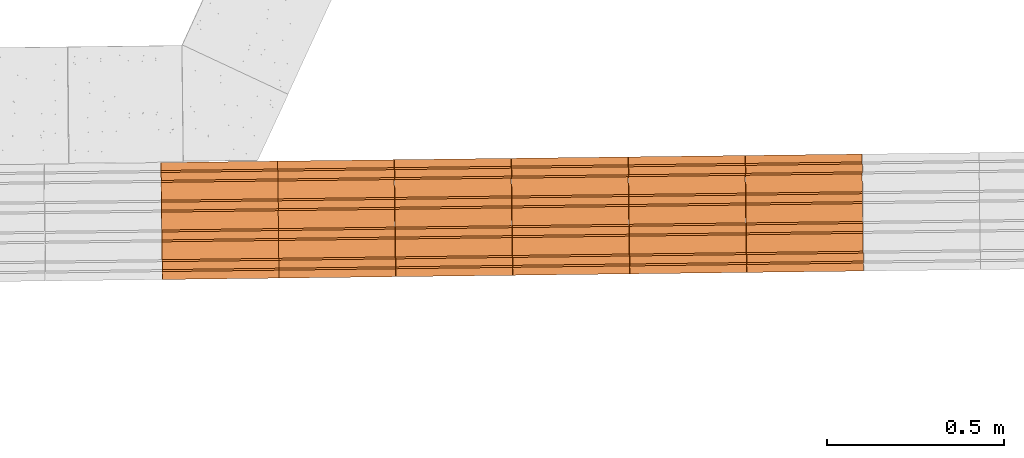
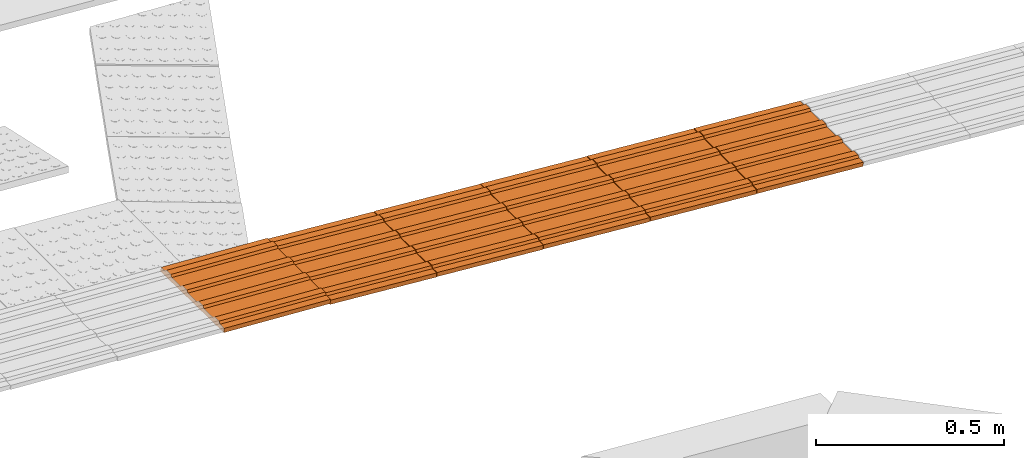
# One storey, part 205 of 237: 6 proxies.
"""IFC2X3 building model written with IfcOpenShell, lengths in millimetres."""

import ifcopenshell
import ifcopenshell.guid

model = None  # the IFC model being written
_history = None  # IfcOwnerHistory: only IFC2X3 demands one
_inside = {}  # id of a spatial element -> (the spatial element, [elements in it])
_under = {}  # id of a project, library or spatial element -> (it, [spatial elements below it])
_declared = {}  # id of a project -> (the project, [libraries it declares])
_typed = {}  # id of a type object -> (the type object, [elements of that type])
_made_of = {}  # id of a material, layer set ... -> (it, [elements and type objects made of it])


def new_model(schema):
    """Start an empty IFC model of exactly this schema.

    Asked for "IFC4X3", IfcOpenShell would pick the latest addendum, in which some entities
    have other attributes; the version numbers below select the first issue.
    IFC2X3 requires an IfcOwnerHistory on every rooted entity: one is made here for all.
    """
    global model, _history
    if schema == "IFC4X3":
        model = ifcopenshell.file(schema_version=(4, 3, 0, 0))
    else:
        model = ifcopenshell.file(schema=schema)
    _inside.clear()
    _under.clear()
    _declared.clear()
    _typed.clear()
    _made_of.clear()
    _history = None
    if model.schema == "IFC2X3":
        org = make("IfcOrganization", Name="unknown")
        user = make(
            "IfcPersonAndOrganization",
            ThePerson=make("IfcPerson", FamilyName="unknown"),
            TheOrganization=org,
        )
        app = make(
            "IfcApplication",
            ApplicationDeveloper=org,
            Version="unknown",
            ApplicationFullName="unknown",
            ApplicationIdentifier="unknown",
        )
        _history = make(
            "IfcOwnerHistory",
            OwningUser=user,
            OwningApplication=app,
            ChangeAction="ADDED",
            CreationDate=0,
        )
    return model


def make(cls, **values):
    """One entity of the class cls with the attributes given. An attribute that is None is left unset."""
    return model.create_entity(
        cls, **{name: value for name, value in values.items() if value is not None}
    )


def entity(cls, *values):
    """Any entity or typed value of the class cls, its attributes in the order of the schema. None: left unset."""
    e = model.create_entity(cls)
    for i, value in enumerate(values):
        if value is not None:
            e[i] = value
    return e


def rooted(cls, **values):
    """An entity with a GlobalId (a new one), such as an element, a storey or a relation."""
    return make(cls, GlobalId=ifcopenshell.guid.new(), OwnerHistory=_history, **values)


def si_unit(unit_type, name, prefix=None):
    """IfcSIUnit, for example si_unit("LENGTHUNIT", "METRE", prefix="MILLI")."""
    return make("IfcSIUnit", UnitType=unit_type, Prefix=prefix, Name=name)


def converted_unit(unit_type, name, factor, base, dimensions=None, offset=None):
    """IfcConversionBasedUnit, such as the inch: factor (a typed value) times the base unit."""
    return make(
        "IfcConversionBasedUnit"
        if offset is None
        else "IfcConversionBasedUnitWithOffset",
        ConversionOffset=offset,
        Dimensions=None
        if dimensions is None
        else entity("IfcDimensionalExponents", *dimensions),
        UnitType=unit_type,
        Name=name,
        ConversionFactor=make(
            "IfcMeasureWithUnit", ValueComponent=factor, UnitComponent=base
        ),
    )


def derived_unit(unit_type, elements):
    """IfcDerivedUnit: a product of units, each with its exponent."""
    return make(
        "IfcDerivedUnit",
        Elements=[
            make("IfcDerivedUnitElement", Unit=unit, Exponent=power)
            for unit, power in elements
        ],
        UnitType=unit_type,
    )


def money_unit(currency):
    """IfcMonetaryUnit."""
    return make("IfcMonetaryUnit", Currency=currency)


def assignment(units):
    """IfcUnitAssignment: the units of a project."""
    return None if units is None else make("IfcUnitAssignment", Units=units)


def point(xyz):
    """IfcCartesianPoint."""
    return None if xyz is None else make("IfcCartesianPoint", Coordinates=xyz)


def direction(xyz):
    """IfcDirection."""
    return None if xyz is None else make("IfcDirection", DirectionRatios=xyz)


def frame(location, z_axis=None, x_axis=None):
    """IfcAxis2Placement3D, a coordinate frame: its origin and axes. An axis left out is left unset."""
    return make(
        "IfcAxis2Placement3D",
        Location=point(location),
        Axis=direction(z_axis),
        RefDirection=direction(x_axis),
    )


def origin_with_axes():
    """The frame at (0, 0, 0) with the z axis (0, 0, 1) and the x axis (1, 0, 0) written out."""
    return frame((0.0, 0.0, 0.0), z_axis=(0.0, 0.0, 1.0), x_axis=(1.0, 0.0, 0.0))


def place(relative_to, where):
    """IfcLocalPlacement: puts the frame where relative to a parent placement (None: the world)."""
    return make(
        "IfcLocalPlacement", PlacementRelTo=relative_to, RelativePlacement=where
    )


def context(
    kind, dimensions, precision=None, world=None, true_north=None, identifier=None
):
    """IfcGeometricRepresentationContext, for example the 3D "Model" context."""
    return make(
        "IfcGeometricRepresentationContext",
        ContextIdentifier=identifier,
        ContextType=kind,
        CoordinateSpaceDimension=dimensions,
        Precision=precision,
        WorldCoordinateSystem=world,
        TrueNorth=true_north,
    )


def subcontext(parent, identifier, kind, view, scale=None):
    """IfcGeometricRepresentationSubContext, for example "Body" below "Model"."""
    return make(
        "IfcGeometricRepresentationSubContext",
        ContextIdentifier=identifier,
        ContextType=kind,
        ParentContext=parent,
        TargetScale=scale,
        TargetView=view,
    )


def project(units=None, contexts=None):
    """IfcProject with its units and contexts."""
    return rooted(
        "IfcProject",
        Name="project",
        RepresentationContexts=contexts,
        UnitsInContext=assignment(units),
    )


def spatial(cls, under=None, at=None, **own):
    """A site, building, storey or space (cls), placed at a placement, below another one or the project."""
    s = rooted(cls, ObjectPlacement=at, **own)
    if under is not None:
        _under.setdefault(under.id(), (under, []))[1].append(s)
    return s


def faces_of(points, faces, orient=None, outer=None):
    """IfcFace entities. A face is a list of loops; a loop is a list of indices into points, from 0.

    orient and outer hold one flag for each loop. By default every Orientation is true, the
    first loop of a face is its IfcFaceOuterBound and the others are IfcFaceBound.
    """
    made = []
    for i, loops in enumerate(faces):
        bounds = []
        for j, loop in enumerate(loops):
            is_outer = j == 0 if outer is None else outer[i][j]
            bounds.append(
                make(
                    "IfcFaceOuterBound" if is_outer else "IfcFaceBound",
                    Bound=make("IfcPolyLoop", Polygon=[points[k] for k in loop]),
                    Orientation=True if orient is None else orient[i][j],
                )
            )
        made.append(make("IfcFace", Bounds=bounds))
    return made


def open_shell(faces, orient=None, outer=None):
    """The faces of one IfcOpenShell. surface_model builds it on its shared points."""
    return ("IfcOpenShell", faces, orient, outer)


def surface_model(cls, points, shells):
    """IfcFaceBasedSurfaceModel or IfcShellBasedSurfaceModel (cls): surfaces that need not close."""
    shared = [point(p) for p in points]
    made = [make(c, CfsFaces=faces_of(shared, fs, o, b)) for c, fs, o, b in shells]
    if cls == "IfcFaceBasedSurfaceModel":
        return make(cls, FbsmFaces=made)
    return make(cls, SbsmBoundary=made)


def shape(context_of_items, identifier, shape_type, items):
    """IfcShapeRepresentation: the items that make up one representation, for example the "Body"."""
    return make(
        "IfcShapeRepresentation",
        ContextOfItems=context_of_items,
        RepresentationIdentifier=identifier,
        RepresentationType=shape_type,
        Items=items,
    )


def source(mapping_origin, context_of_items, identifier, shape_type, items):
    """IfcRepresentationMap: a shape defined once, which mapped items show again and again."""
    return make(
        "IfcRepresentationMap",
        MappingOrigin=mapping_origin,
        MappedRepresentation=shape(context_of_items, identifier, shape_type, items),
    )


def transform(
    local_origin,
    x_axis=None,
    y_axis=None,
    z_axis=None,
    scale=None,
    scale2=None,
    scale3=None,
    uniform=True,
):
    """IfcCartesianTransformationOperator3D, or its non-uniform kind. x_axis, y_axis, z_axis: its Axis1, 2, 3."""
    if uniform:
        return make(
            "IfcCartesianTransformationOperator3D",
            Axis1=direction(x_axis),
            Axis2=direction(y_axis),
            LocalOrigin=point(local_origin),
            Scale=scale,
            Axis3=direction(z_axis),
        )
    return make(
        "IfcCartesianTransformationOperator3DnonUniform",
        Axis1=direction(x_axis),
        Axis2=direction(y_axis),
        LocalOrigin=point(local_origin),
        Scale=scale,
        Axis3=direction(z_axis),
        Scale2=scale2,
        Scale3=scale3,
    )


def mapped(mapping_source, mapping_target):
    """IfcMappedItem: shows the shape of a source again, moved by a transform."""
    return make(
        "IfcMappedItem", MappingSource=mapping_source, MappingTarget=mapping_target
    )


def made_of(thing, what):
    """Note that an element or type object is made of a material, layer set ...; save() writes the relation."""
    if what is not None:
        _made_of.setdefault(what.id(), (what, []))[1].append(thing)
    return thing


def type_object(cls, material=None, **own):
    """A type object (cls), such as IfcWallType, which elements share."""
    return made_of(rooted(cls, **own), material)


def element(
    cls,
    number,
    at=None,
    inside=None,
    cuts=None,
    type_object=None,
    material=None,
    context=None,
    identifier="Body",
    shape_type=None,
    held_by="IfcProductDefinitionShape",
    body=None,
    shapes=None,
    **own,
):
    """One element of the class cls, such as IfcWall. Its Tag is "e" and its number.

    at: its placement. inside: the storey or other place that contains it. cuts: it is an
    opening in that element (IfcRelVoidsElement). A single representation is given by context,
    identifier, shape_type and body (its items); several are given by shapes. held_by: the class
    of the entity that holds the representations. save() writes the other relations.
    """
    e = rooted(cls, Tag="e%d" % number, ObjectPlacement=at, **own)
    if body is not None:
        shapes = [shape(context, identifier, shape_type, body)]
    if shapes is not None:
        e.Representation = make(held_by, Representations=shapes)
    if inside is not None:
        _inside.setdefault(inside.id(), (inside, []))[1].append(e)
    if cuts is not None:
        rooted(
            "IfcRelVoidsElement", RelatingBuildingElement=cuts, RelatedOpeningElement=e
        )
    if type_object is not None:
        _typed.setdefault(type_object.id(), (type_object, []))[1].append(e)
    return made_of(e, material)


def aggregate(whole, parts):
    """IfcRelAggregates: a whole, such as a stair, and the parts it consists of."""
    return rooted("IfcRelAggregates", RelatingObject=whole, RelatedObjects=parts)


def save(model, path):
    """Write the relations noted so far, then the file.

    IfcRelAggregates (storeys below a building ...), IfcRelContainedInSpatialStructure (elements
    in a storey), IfcRelDefinesByType, IfcRelAssociatesMaterial and IfcRelDeclares: one each for
    every whole, place, type object, material and project.
    """
    for whole, parts in _under.values():
        aggregate(whole, parts)
    for where, things in _inside.values():
        rooted(
            "IfcRelContainedInSpatialStructure",
            RelatedElements=things,
            RelatingStructure=where,
        )
    for kind, things in _typed.values():
        rooted("IfcRelDefinesByType", RelatedObjects=things, RelatingType=kind)
    for what, things in _made_of.values():
        rooted("IfcRelAssociatesMaterial", RelatedObjects=things, RelatingMaterial=what)
    for by, libraries in _declared.values():
        rooted("IfcRelDeclares", RelatingContext=by, RelatedDefinitions=libraries)
    model.write(path)


model = new_model("IFC2X3")

# Units and contexts
model_context = context("Model", 3, precision=0.01, world=origin_with_axes(), true_north=direction((0.0, 1.0)))
body_context = subcontext(model_context, "Body", "Model", "MODEL_VIEW")
ifc_project = project(units=[si_unit("LENGTHUNIT", "METRE", prefix="MILLI"), si_unit("AREAUNIT", "SQUARE_METRE"), si_unit("VOLUMEUNIT", "CUBIC_METRE"), converted_unit("PLANEANGLEUNIT", "DEGREE", entity("IfcPlaneAngleMeasure", 0.0174532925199), si_unit("PLANEANGLEUNIT", "RADIAN"), dimensions=[0, 0, 0, 0, 0, 0, 0]), money_unit("USD"), converted_unit("TIMEUNIT", "Year", entity("IfcTimeMeasure", 31556926.0), si_unit("TIMEUNIT", "SECOND"), dimensions=[0, 0, 1, 0, 0, 0, 0]), si_unit("MASSUNIT", "GRAM", prefix="KILO"), si_unit("THERMODYNAMICTEMPERATUREUNIT", "DEGREE_CELSIUS"), si_unit("LUMINOUSINTENSITYUNIT", "LUMEN"), si_unit("ENERGYUNIT", "JOULE", prefix="MEGA"), derived_unit("THERMALCONDUCTANCEUNIT", [(si_unit("POWERUNIT", "WATT"), 1), (si_unit("LENGTHUNIT", "METRE"), -1), (si_unit("THERMODYNAMICTEMPERATUREUNIT", "KELVIN"), -1)]), derived_unit("SPECIFICHEATCAPACITYUNIT", [(si_unit("ENERGYUNIT", "JOULE"), 1), (si_unit("MASSUNIT", "GRAM", prefix="KILO"), -1), (si_unit("THERMODYNAMICTEMPERATUREUNIT", "KELVIN"), -1)]), derived_unit("MASSDENSITYUNIT", [(si_unit("MASSUNIT", "GRAM", prefix="KILO"), 1), (si_unit("VOLUMEUNIT", "CUBIC_METRE"), -1)])], contexts=[model_context])

# Site, building, storey
site_placement = place(None, origin_with_axes())
site = spatial("IfcSite", under=ifc_project, at=site_placement, Name="Local", CompositionType="ELEMENT")
building_placement = place(site_placement, origin_with_axes())
building = spatial("IfcBuilding", under=site, at=building_placement, Name="Construção", CompositionType="ELEMENT")
storey_placement = place(building_placement, origin_with_axes())
storey = spatial("IfcBuildingStorey", under=building, at=storey_placement, Name="Pavimento Térreo", CompositionType="ELEMENT", Elevation=0.0)

# Proxies
building_element_proxy_type = type_object("IfcBuildingElementProxyType", Name="Piso Direcional 27", PredefinedType="NOTDEFINED")
shared_shape_1 = source(origin_with_axes(), body_context, "Body", "SurfaceModel", [
    surface_model("IfcShellBasedSurfaceModel", [(-0.281015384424, -47.258225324, 4.01870722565), (328.915121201, -47.258225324, 27.0383435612), (328.450078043, -41.665004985, 33.6887705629), (-0.746058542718, -41.665004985, 10.6691342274)], [open_shell([[[0, 1, 2, 3]]])]),
    surface_model("IfcShellBasedSurfaceModel", [(329.845207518, -153.529411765, 13.7374895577), (329.845207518, 176.470588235, 13.7374895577), (328.915121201, 176.470588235, 27.0383435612), (328.915121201, 154.097706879, 27.0383435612), (328.450078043, 148.50448654, 33.6887705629), (328.450078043, 126.131605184, 33.6887705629), (328.915121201, 120.538384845, 27.0383435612), (328.915121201, 70.1994017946, 27.0383435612), (328.450078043, 64.6061814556, 33.6887705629), (328.450078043, 42.2333000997, 33.6887705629), (328.915121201, 36.6400797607, 27.0383435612), (328.915121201, -13.6989032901, 27.0383435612), (328.450078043, -19.2921236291, 33.6887705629), (328.450078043, -41.665004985, 33.6887705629), (328.915121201, -47.258225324, 27.0383435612), (328.915121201, -97.5972083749, 27.0383435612), (328.450078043, -103.190428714, 33.6887705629), (328.450078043, -125.56331007, 33.6887705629), (328.915121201, -131.156530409, 27.0383435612), (328.915121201, -153.529411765, 27.0383435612)], [open_shell([[[0, 1, 2, 3, 4, 5, 6, 7, 8, 9, 10, 11, 12, 13, 14, 15, 16, 17, 18, 19]]])]),
    surface_model("IfcShellBasedSurfaceModel", [(-0.746058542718, -19.2921236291, 10.6691342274), (328.450078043, -19.2921236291, 33.6887705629), (328.915121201, -13.6989032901, 27.0383435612), (-0.281015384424, -13.6989032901, 4.01870722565)], [open_shell([[[0, 1, 2, 3]]])]),
    surface_model("IfcShellBasedSurfaceModel", [(-0.746058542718, -103.190428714, 10.6691342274), (328.450078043, -103.190428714, 33.6887705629), (328.915121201, -97.5972083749, 27.0383435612), (-0.281015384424, -97.5972083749, 4.01870722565)], [open_shell([[[0, 1, 2, 3]]])]),
    surface_model("IfcShellBasedSurfaceModel", [(-0.746058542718, 64.6061814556, 10.6691342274), (328.450078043, 64.6061814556, 33.6887705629), (328.915121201, 70.1994017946, 27.0383435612), (-0.281015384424, 70.1994017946, 4.01870722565)], [open_shell([[[0, 1, 2, 3]]])]),
    surface_model("IfcShellBasedSurfaceModel", [(-0.281015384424, 36.6400797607, 4.01870722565), (328.915121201, 36.6400797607, 27.0383435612), (328.450078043, 42.2333000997, 33.6887705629), (-0.746058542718, 42.2333000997, 10.6691342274)], [open_shell([[[0, 1, 2, 3]]])]),
    surface_model("IfcShellBasedSurfaceModel", [(-0.281015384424, -131.156530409, 4.01870722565), (328.915121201, -131.156530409, 27.0383435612), (328.450078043, -125.56331007, 33.6887705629), (-0.746058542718, -125.56331007, 10.6691342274)], [open_shell([[[0, 1, 2, 3]]])]),
    surface_model("IfcShellBasedSurfaceModel", [(-0.281015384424, 176.470588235, 4.01870722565), (-0.281015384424, 154.097706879, 4.01870722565), (328.915121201, 154.097706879, 27.0383435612), (328.915121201, 176.470588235, 27.0383435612)], [open_shell([[[0, 1, 2, 3]]])]),
    surface_model("IfcShellBasedSurfaceModel", [(-0.281015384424, 120.538384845, 4.01870722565), (328.915121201, 120.538384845, 27.0383435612), (328.450078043, 126.131605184, 33.6887705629), (-0.746058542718, 126.131605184, 10.6691342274)], [open_shell([[[0, 1, 2, 3]]])]),
    surface_model("IfcShellBasedSurfaceModel", [(-0.746058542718, 148.50448654, 10.6691342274), (328.450078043, 148.50448654, 33.6887705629), (328.915121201, 154.097706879, 27.0383435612), (-0.281015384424, 154.097706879, 4.01870722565)], [open_shell([[[0, 1, 2, 3]]])]),
    surface_model("IfcShellBasedSurfaceModel", [(-0.281015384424, 36.6400797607, 4.01870722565), (-0.281015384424, -13.6989032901, 4.01870722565), (328.915121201, -13.6989032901, 27.0383435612), (328.915121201, 36.6400797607, 27.0383435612)], [open_shell([[[0, 1, 2, 3]]])]),
    surface_model("IfcShellBasedSurfaceModel", [(-0.281015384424, 120.538384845, 4.01870722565), (-0.281015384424, 70.1994017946, 4.01870722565), (328.915121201, 70.1994017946, 27.0383435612), (328.915121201, 120.538384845, 27.0383435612)], [open_shell([[[0, 1, 2, 3]]])]),
    surface_model("IfcShellBasedSurfaceModel", [(-0.746058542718, 148.50448654, 10.6691342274), (-0.746058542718, 126.131605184, 10.6691342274), (328.450078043, 126.131605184, 33.6887705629), (328.450078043, 148.50448654, 33.6887705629)], [open_shell([[[0, 1, 2, 3]]])]),
    surface_model("IfcShellBasedSurfaceModel", [(-0.281015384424, 120.538384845, 4.01870722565), (-0.746058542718, 126.131605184, 10.6691342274), (-0.746058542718, 148.50448654, 10.6691342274), (-0.281015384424, 154.097706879, 4.01870722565), (-0.281015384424, 176.470588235, 4.01870722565), (0.649070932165, 176.470588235, -9.28214677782), (0.649070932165, -153.529411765, -9.28214677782), (-0.281015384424, -153.529411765, 4.01870722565), (-0.281015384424, -131.156530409, 4.01870722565), (-0.746058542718, -125.56331007, 10.6691342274), (-0.746058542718, -103.190428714, 10.6691342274), (-0.281015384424, -97.5972083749, 4.01870722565), (-0.281015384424, -47.258225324, 4.01870722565), (-0.746058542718, -41.665004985, 10.6691342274), (-0.746058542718, -19.2921236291, 10.6691342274), (-0.281015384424, -13.6989032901, 4.01870722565), (-0.281015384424, 36.6400797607, 4.01870722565), (-0.746058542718, 42.2333000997, 10.6691342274), (-0.746058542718, 64.6061814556, 10.6691342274), (-0.281015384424, 70.1994017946, 4.01870722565)], [open_shell([[[0, 1, 2, 3, 4, 5, 6, 7, 8, 9, 10, 11, 12, 13, 14, 15, 16, 17, 18, 19]]])]),
    surface_model("IfcShellBasedSurfaceModel", [(328.450078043, -41.665004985, 33.6887705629), (328.450078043, -19.2921236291, 33.6887705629), (-0.746058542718, -19.2921236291, 10.6691342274), (-0.746058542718, -41.665004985, 10.6691342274)], [open_shell([[[0, 1, 2, 3]]])]),
    surface_model("IfcShellBasedSurfaceModel", [(-0.281015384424, -47.258225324, 4.01870722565), (-0.281015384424, -97.5972083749, 4.01870722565), (328.915121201, -97.5972083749, 27.0383435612), (328.915121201, -47.258225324, 27.0383435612)], [open_shell([[[0, 1, 2, 3]]])]),
    surface_model("IfcShellBasedSurfaceModel", [(328.450078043, 42.2333000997, 33.6887705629), (328.450078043, 64.6061814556, 33.6887705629), (-0.746058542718, 64.6061814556, 10.6691342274), (-0.746058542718, 42.2333000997, 10.6691342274)], [open_shell([[[0, 1, 2, 3]]])]),
    surface_model("IfcShellBasedSurfaceModel", [(328.450078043, -125.56331007, 33.6887705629), (328.450078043, -103.190428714, 33.6887705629), (-0.746058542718, -103.190428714, 10.6691342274), (-0.746058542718, -125.56331007, 10.6691342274)], [open_shell([[[0, 1, 2, 3]]])]),
    surface_model("IfcShellBasedSurfaceModel", [(329.845207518, 176.470588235, 13.7374895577), (0.649070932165, 176.470588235, -9.28214677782), (-0.281015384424, 176.470588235, 4.01870722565), (328.915121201, 176.470588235, 27.0383435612)], [open_shell([[[0, 1, 2, 3]]])]),
    surface_model("IfcShellBasedSurfaceModel", [(329.845207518, -153.529411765, 13.7374895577), (0.649070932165, -153.529411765, -9.28214677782), (0.649070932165, 176.470588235, -9.28214677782), (329.845207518, 176.470588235, 13.7374895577)], [open_shell([[[0, 1, 2, 3]]])]),
    surface_model("IfcShellBasedSurfaceModel", [(328.915121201, -153.529411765, 27.0383435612), (328.915121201, -131.156530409, 27.0383435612), (-0.281015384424, -131.156530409, 4.01870722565), (-0.281015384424, -153.529411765, 4.01870722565)], [open_shell([[[0, 1, 2, 3]]])]),
    surface_model("IfcShellBasedSurfaceModel", [(0.649070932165, -153.529411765, -9.28214677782), (329.845207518, -153.529411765, 13.7374895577), (328.915121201, -153.529411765, 27.0383435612), (-0.281015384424, -153.529411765, 4.01870722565)], [open_shell([[[0, 1, 2, 3]]])]),
])
proxy_placement = place(storey_placement, frame((132146.050721, 37651.4485223, -7861.3653716), z_axis=(0.0, 0.0, 1.0), x_axis=(-0.999926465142, -0.012127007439, 0.0)))
element("IfcBuildingElementProxy", 1, at=proxy_placement, inside=storey, type_object=building_element_proxy_type, Name="Objeto-0055", context=body_context, shape_type="MappedRepresentation", body=[
    mapped(shared_shape_1, transform((0.0, 0.0, 0.0))),
])
shared_shape_2 = source(origin_with_axes(), body_context, "Body", "SurfaceModel", [
    surface_model("IfcShellBasedSurfaceModel", [(-0.351108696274, -47.258225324, 4.01319076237), (328.393141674, -47.258225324, 32.7745858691), (327.812103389, -41.665004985, 39.4158838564), (-0.932146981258, -41.665004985, 10.6544887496)], [open_shell([[[0, 1, 2, 3]]])]),
    surface_model("IfcShellBasedSurfaceModel", [(329.555218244, -153.529411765, 19.4919898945), (329.555218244, 176.470588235, 19.4919898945), (328.393141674, 176.470588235, 32.7745858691), (328.393141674, 154.097706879, 32.7745858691), (327.812103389, 148.50448654, 39.4158838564), (327.812103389, 126.131605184, 39.4158838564), (328.393141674, 120.538384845, 32.7745858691), (328.393141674, 70.1994017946, 32.7745858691), (327.812103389, 64.6061814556, 39.4158838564), (327.812103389, 42.2333000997, 39.4158838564), (328.393141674, 36.6400797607, 32.7745858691), (328.393141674, -13.6989032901, 32.7745858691), (327.812103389, -19.2921236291, 39.4158838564), (327.812103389, -41.665004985, 39.4158838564), (328.393141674, -47.258225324, 32.7745858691), (328.393141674, -97.5972083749, 32.7745858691), (327.812103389, -103.190428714, 39.4158838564), (327.812103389, -125.56331007, 39.4158838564), (328.393141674, -131.156530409, 32.7745858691), (328.393141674, -153.529411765, 32.7745858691)], [open_shell([[[0, 1, 2, 3, 4, 5, 6, 7, 8, 9, 10, 11, 12, 13, 14, 15, 16, 17, 18, 19]]])]),
    surface_model("IfcShellBasedSurfaceModel", [(-0.932146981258, -19.2921236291, 10.6544887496), (327.812103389, -19.2921236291, 39.4158838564), (328.393141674, -13.6989032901, 32.7745858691), (-0.351108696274, -13.6989032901, 4.01319076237)], [open_shell([[[0, 1, 2, 3]]])]),
    surface_model("IfcShellBasedSurfaceModel", [(-0.932146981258, -103.190428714, 10.6544887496), (327.812103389, -103.190428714, 39.4158838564), (328.393141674, -97.5972083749, 32.7745858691), (-0.351108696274, -97.5972083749, 4.01319076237)], [open_shell([[[0, 1, 2, 3]]])]),
    surface_model("IfcShellBasedSurfaceModel", [(-0.932146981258, 64.6061814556, 10.6544887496), (327.812103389, 64.6061814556, 39.4158838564), (328.393141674, 70.1994017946, 32.7745858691), (-0.351108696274, 70.1994017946, 4.01319076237)], [open_shell([[[0, 1, 2, 3]]])]),
    surface_model("IfcShellBasedSurfaceModel", [(-0.351108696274, 36.6400797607, 4.01319076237), (328.393141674, 36.6400797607, 32.7745858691), (327.812103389, 42.2333000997, 39.4158838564), (-0.932146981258, 42.2333000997, 10.6544887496)], [open_shell([[[0, 1, 2, 3]]])]),
    surface_model("IfcShellBasedSurfaceModel", [(-0.351108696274, -131.156530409, 4.01319076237), (328.393141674, -131.156530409, 32.7745858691), (327.812103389, -125.56331007, 39.4158838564), (-0.932146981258, -125.56331007, 10.6544887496)], [open_shell([[[0, 1, 2, 3]]])]),
    surface_model("IfcShellBasedSurfaceModel", [(-0.351108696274, 176.470588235, 4.01319076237), (-0.351108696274, 154.097706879, 4.01319076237), (328.393141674, 154.097706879, 32.7745858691), (328.393141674, 176.470588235, 32.7745858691)], [open_shell([[[0, 1, 2, 3]]])]),
    surface_model("IfcShellBasedSurfaceModel", [(-0.351108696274, 120.538384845, 4.01319076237), (328.393141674, 120.538384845, 32.7745858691), (327.812103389, 126.131605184, 39.4158838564), (-0.932146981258, 126.131605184, 10.6544887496)], [open_shell([[[0, 1, 2, 3]]])]),
    surface_model("IfcShellBasedSurfaceModel", [(-0.932146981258, 148.50448654, 10.6544887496), (327.812103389, 148.50448654, 39.4158838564), (328.393141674, 154.097706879, 32.7745858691), (-0.351108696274, 154.097706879, 4.01319076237)], [open_shell([[[0, 1, 2, 3]]])]),
    surface_model("IfcShellBasedSurfaceModel", [(-0.351108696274, 36.6400797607, 4.01319076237), (-0.351108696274, -13.6989032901, 4.01319076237), (328.393141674, -13.6989032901, 32.7745858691), (328.393141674, 36.6400797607, 32.7745858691)], [open_shell([[[0, 1, 2, 3]]])]),
    surface_model("IfcShellBasedSurfaceModel", [(-0.351108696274, 120.538384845, 4.01319076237), (-0.351108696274, 70.1994017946, 4.01319076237), (328.393141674, 70.1994017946, 32.7745858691), (328.393141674, 120.538384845, 32.7745858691)], [open_shell([[[0, 1, 2, 3]]])]),
    surface_model("IfcShellBasedSurfaceModel", [(-0.932146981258, 148.50448654, 10.6544887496), (-0.932146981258, 126.131605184, 10.6544887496), (327.812103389, 126.131605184, 39.4158838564), (327.812103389, 148.50448654, 39.4158838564)], [open_shell([[[0, 1, 2, 3]]])]),
    surface_model("IfcShellBasedSurfaceModel", [(-0.351108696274, 120.538384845, 4.01319076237), (-0.932146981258, 126.131605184, 10.6544887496), (-0.932146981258, 148.50448654, 10.6544887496), (-0.351108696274, 154.097706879, 4.01319076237), (-0.351108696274, 176.470588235, 4.01319076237), (0.810967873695, 176.470588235, -9.26940521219), (0.810967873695, -153.529411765, -9.26940521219), (-0.351108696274, -153.529411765, 4.01319076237), (-0.351108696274, -131.156530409, 4.01319076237), (-0.932146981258, -125.56331007, 10.6544887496), (-0.932146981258, -103.190428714, 10.6544887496), (-0.351108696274, -97.5972083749, 4.01319076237), (-0.351108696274, -47.258225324, 4.01319076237), (-0.932146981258, -41.665004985, 10.6544887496), (-0.932146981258, -19.2921236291, 10.6544887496), (-0.351108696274, -13.6989032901, 4.01319076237), (-0.351108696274, 36.6400797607, 4.01319076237), (-0.932146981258, 42.2333000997, 10.6544887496), (-0.932146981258, 64.6061814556, 10.6544887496), (-0.351108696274, 70.1994017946, 4.01319076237)], [open_shell([[[0, 1, 2, 3, 4, 5, 6, 7, 8, 9, 10, 11, 12, 13, 14, 15, 16, 17, 18, 19]]])]),
    surface_model("IfcShellBasedSurfaceModel", [(327.812103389, -41.665004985, 39.4158838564), (327.812103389, -19.2921236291, 39.4158838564), (-0.932146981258, -19.2921236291, 10.6544887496), (-0.932146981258, -41.665004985, 10.6544887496)], [open_shell([[[0, 1, 2, 3]]])]),
    surface_model("IfcShellBasedSurfaceModel", [(-0.351108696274, -47.258225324, 4.01319076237), (-0.351108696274, -97.5972083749, 4.01319076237), (328.393141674, -97.5972083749, 32.7745858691), (328.393141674, -47.258225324, 32.7745858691)], [open_shell([[[0, 1, 2, 3]]])]),
    surface_model("IfcShellBasedSurfaceModel", [(327.812103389, 42.2333000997, 39.4158838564), (327.812103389, 64.6061814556, 39.4158838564), (-0.932146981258, 64.6061814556, 10.6544887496), (-0.932146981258, 42.2333000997, 10.6544887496)], [open_shell([[[0, 1, 2, 3]]])]),
    surface_model("IfcShellBasedSurfaceModel", [(327.812103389, -125.56331007, 39.4158838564), (327.812103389, -103.190428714, 39.4158838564), (-0.932146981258, -103.190428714, 10.6544887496), (-0.932146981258, -125.56331007, 10.6544887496)], [open_shell([[[0, 1, 2, 3]]])]),
    surface_model("IfcShellBasedSurfaceModel", [(329.555218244, 176.470588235, 19.4919898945), (0.810967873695, 176.470588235, -9.26940521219), (-0.351108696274, 176.470588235, 4.01319076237), (328.393141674, 176.470588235, 32.7745858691)], [open_shell([[[0, 1, 2, 3]]])]),
    surface_model("IfcShellBasedSurfaceModel", [(329.555218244, -153.529411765, 19.4919898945), (0.810967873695, -153.529411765, -9.26940521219), (0.810967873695, 176.470588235, -9.26940521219), (329.555218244, 176.470588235, 19.4919898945)], [open_shell([[[0, 1, 2, 3]]])]),
    surface_model("IfcShellBasedSurfaceModel", [(328.393141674, -153.529411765, 32.7745858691), (328.393141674, -131.156530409, 32.7745858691), (-0.351108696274, -131.156530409, 4.01319076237), (-0.351108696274, -153.529411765, 4.01319076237)], [open_shell([[[0, 1, 2, 3]]])]),
    surface_model("IfcShellBasedSurfaceModel", [(0.810967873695, -153.529411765, -9.26940521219), (329.555218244, -153.529411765, 19.4919898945), (328.393141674, -153.529411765, 32.7745858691), (-0.351108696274, -153.529411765, 4.01319076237)], [open_shell([[[0, 1, 2, 3]]])]),
])
for number, where, z_axis, x_axis, name in (
    (2, (132474.228302, 37655.4286262, -7892.97128435), (0.0, 0.0, 1.0), (-0.999926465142, -0.012127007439, 0.0), "Objeto-0055"),
    (3, (132804.282544, 37659.4317595, -7920.99791696), (0.0, 0.0, 1.0), (-0.999926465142, -0.012127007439, 0.0), "Objeto-0055"),
    (4, (133134.336785, 37663.4348928, -7949.02454957), (0.0, 0.0, 1.0), (-0.999926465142, -0.012127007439, 0.0), "Objeto-0055"),
    (5, (133464.391026, 37667.438026, -7977.05118217), (0.0, 0.0, 1.0), (-0.999926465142, -0.012127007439, 0.0), "Objeto-0055"),
    (6, (133794.445268, 37671.4411593, -8005.07781478), (0.0, 0.0, 1.0), (-0.999926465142, -0.012127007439, 0.0), "Objeto-0055"),
):
    element("IfcBuildingElementProxy", number, at=place(storey_placement, frame(where, z_axis=z_axis, x_axis=x_axis)), inside=storey, type_object=building_element_proxy_type, Name=name, context=body_context, shape_type="MappedRepresentation", body=[
        mapped(shared_shape_2, transform((0.0, 0.0, 0.0))),
    ])

save(model, "model.ifc")
